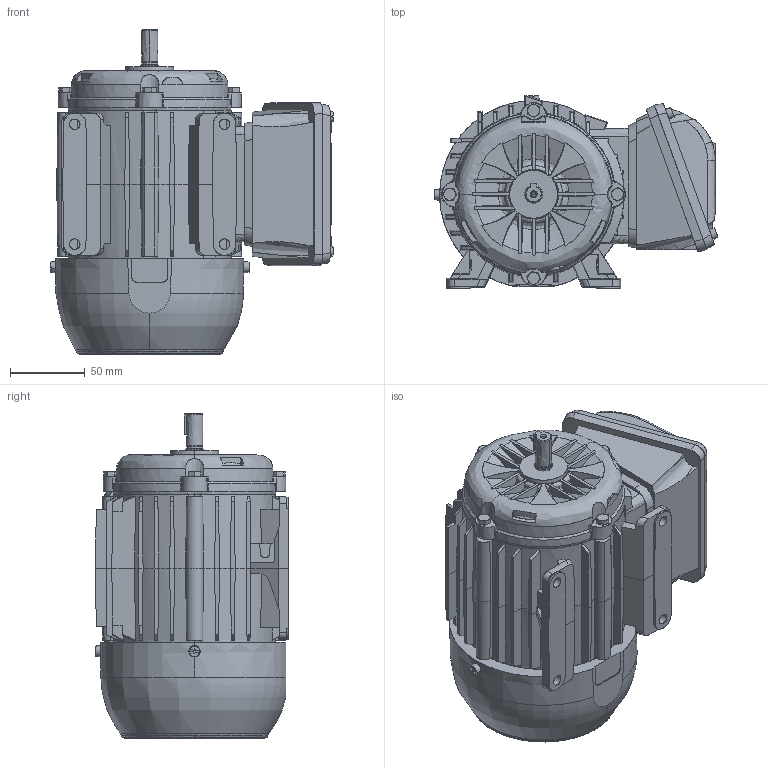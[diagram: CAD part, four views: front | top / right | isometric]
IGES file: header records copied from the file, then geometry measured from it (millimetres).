
Start section: SolidWorks IGES file using analytic representation for surfaces
Global section: file name: C:\Users\ianr\Documents\Trabalho de Implantação de linha\Wwash\IEC\01_FRAME_63\STANDARD\IGS\63_RIGHT.IGS; native system: SolidWorks 2012; preprocessor: SolidWorks 2012; author: ianr; date: 131030.174149; units: millimetre
Bounding box: 189.43 x 129.45 x 216.4 mm (x, y, z)
Surface area: 245801.4 mm2 (no closed solid volume)
Topology: 0 solids, 0 shells, 1472 faces, 14490 edges, 14488 vertices
Faces by surface type: bspline 1079, revolution 393
